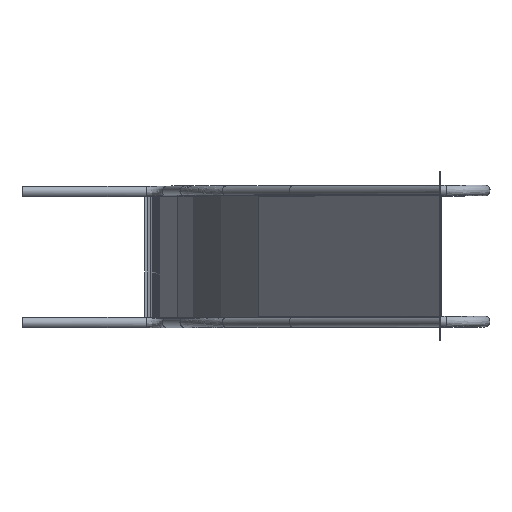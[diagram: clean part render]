
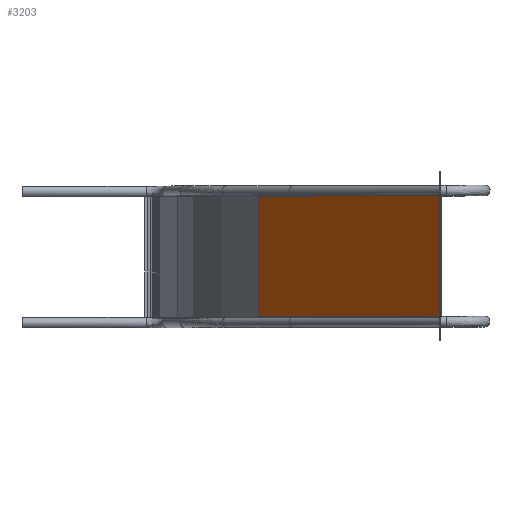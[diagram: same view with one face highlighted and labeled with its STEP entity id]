
A CAD part, top view. The second image highlights one B-rep face of the part: STEP entity #3203.
In plain terms, the highlighted planar face has unit normal (-0.788, 0, 0.616) as drawn and (0, 0, 1) by its records, which use the part's own axes.
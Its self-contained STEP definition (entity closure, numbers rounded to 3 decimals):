
#228=FACE_OUTER_BOUND('',#429,.T.);
#429=EDGE_LOOP('',(#2291,#2292,#2293,#2294,#2295,#2296,#2297,#2298));
#733=LINE('',#4890,#1058);
#750=LINE('',#4931,#1075);
#752=LINE('',#4935,#1077);
#767=LINE('',#5065,#1092);
#787=LINE('',#5113,#1112);
#788=LINE('',#5115,#1113);
#790=LINE('',#5119,#1115);
#792=LINE('',#5139,#1117);
#1058=VECTOR('',#3900,10.);
#1075=VECTOR('',#3941,10.);
#1077=VECTOR('',#3945,10.);
#1092=VECTOR('',#3972,10.);
#1112=VECTOR('',#4024,10.);
#1113=VECTOR('',#4027,10.);
#1115=VECTOR('',#4031,10.);
#1117=VECTOR('',#4039,10.);
#1378=VERTEX_POINT('',#4863);
#1385=VERTEX_POINT('',#4877);
#1397=VERTEX_POINT('',#4909);
#1401=VERTEX_POINT('',#4924);
#1402=VERTEX_POINT('',#4934);
#1408=VERTEX_POINT('',#4950);
#1426=VERTEX_POINT('',#5111);
#1427=VERTEX_POINT('',#5117);
#1666=EDGE_CURVE('',#1385,#1378,#733,.T.);
#1687=EDGE_CURVE('',#1397,#1401,#750,.T.);
#1689=EDGE_CURVE('',#1397,#1402,#752,.T.);
#1708=EDGE_CURVE('',#1385,#1408,#767,.T.);
#1732=EDGE_CURVE('',#1426,#1401,#787,.T.);
#1733=EDGE_CURVE('',#1402,#1408,#788,.T.);
#1735=EDGE_CURVE('',#1427,#1426,#790,.T.);
#1740=EDGE_CURVE('',#1427,#1378,#792,.T.);
#2291=ORIENTED_EDGE('',*,*,#1687,.T.);
#2292=ORIENTED_EDGE('',*,*,#1732,.F.);
#2293=ORIENTED_EDGE('',*,*,#1735,.F.);
#2294=ORIENTED_EDGE('',*,*,#1740,.T.);
#2295=ORIENTED_EDGE('',*,*,#1666,.F.);
#2296=ORIENTED_EDGE('',*,*,#1708,.T.);
#2297=ORIENTED_EDGE('',*,*,#1733,.F.);
#2298=ORIENTED_EDGE('',*,*,#1689,.F.);
#3059=PLANE('',#3585);
#3203=ADVANCED_FACE('',(#228),#3059,.F.);
#3585=AXIS2_PLACEMENT_3D('',#5232,#4049,#4050);
#3900=DIRECTION('',(0.,1.,0.));
#3941=DIRECTION('',(0.,1.,0.));
#3945=DIRECTION('',(-1.,0.,0.));
#3972=DIRECTION('',(1.,0.,0.));
#4024=DIRECTION('',(1.,0.,0.));
#4027=DIRECTION('',(0.,-1.,0.));
#4031=DIRECTION('',(0.,-1.,0.));
#4039=DIRECTION('',(-1.,0.,0.));
#4049=DIRECTION('center_axis',(0.,0.,-1.));
#4050=DIRECTION('ref_axis',(0.,1.,0.));
#4863=CARTESIAN_POINT('',(-1137.964,427.476,-540.524));
#4877=CARTESIAN_POINT('',(-1137.964,4.,-540.524));
#4890=CARTESIAN_POINT('',(-1137.964,-146.262,-540.524));
#4909=CARTESIAN_POINT('',(-97.342,5.765,-540.524));
#4924=CARTESIAN_POINT('',(-97.342,425.765,-540.524));
#4931=CARTESIAN_POINT('',(-97.342,320.765,-540.524));
#4934=CARTESIAN_POINT('',(-98.919,5.765,-540.524));
#4935=CARTESIAN_POINT('',(-97.009,5.765,-540.524));
#4950=CARTESIAN_POINT('',(-98.919,4.,-540.524));
#5065=CARTESIAN_POINT('',(-315.82,4.,-540.524));
#5111=CARTESIAN_POINT('',(-98.919,425.765,-540.524));
#5113=CARTESIAN_POINT('',(-98.919,425.765,-540.524));
#5115=CARTESIAN_POINT('',(-98.919,5.765,-540.524));
#5117=CARTESIAN_POINT('',(-98.919,427.476,-540.524));
#5119=CARTESIAN_POINT('',(-98.919,430.289,-540.524));
#5139=CARTESIAN_POINT('',(-152.797,427.476,-540.524));
#5232=CARTESIAN_POINT('Origin',(-206.675,215.765,-540.524));
